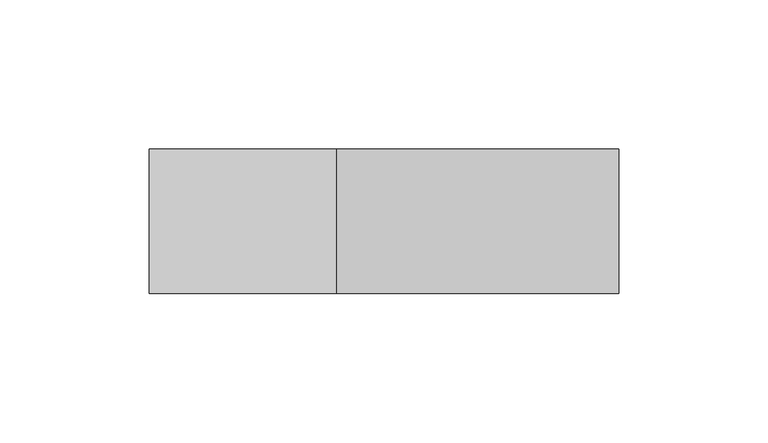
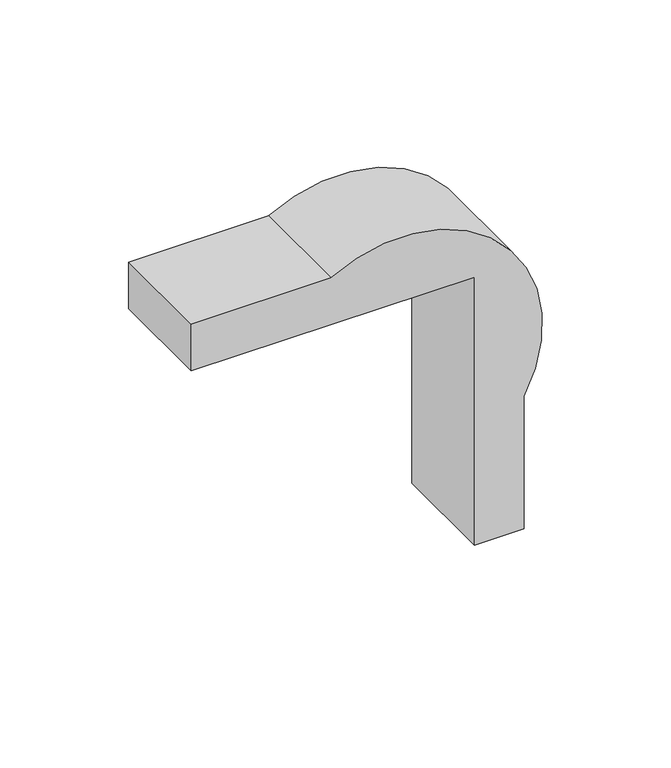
"""IFC4 building model written with IfcOpenShell, lengths in millimetres: proxy geometry, Elbow-2400_Series-Wiremold-External : Radiused, Fog White."""

from ifc_helpers import new_model, si_unit, point, frame, frame_2d, origin, place, context, project, spatial, polyline, circle_curve, trimmed, segment, composite_curve, outline, extrude, source, transform, mapped, element, save


def electrical_fixtures_f7514c31(model_context):
    return source(origin(), model_context, "Body", "SweptSolid", [
        extrude(outline(composite_curve([segment(polyline([(22.225, -64.3287843), (22.225, -127.0), (0.0, -127.0), (0.0, 0.0), (-127.0, 0.0), (-127.0, 22.225), (-64.3287843, 22.225)]), True, "CONTINUOUS"), segment(trimmed(circle_curve(frame_2d((-33.02, -33.02)), 63.5), [point((-64.3287843, 22.225))], [point((22.225, -64.3287843))], False, "CARTESIAN"), True, "CONTINUOUS")], self_intersect=False)), frame((0.0, -24.2062, 0.0), z_axis=(0.0, 1.0, 0.0), x_axis=(0.0, 0.0, 1.0)), (0.0, 0.0, 1.0), 48.4124),
    ])


if __name__ == "__main__":
    model = new_model("IFC4")
    model_context = context("Model", 3, world=origin())
    ifc_project = project(units=[si_unit("LENGTHUNIT", "METRE", prefix="MILLI")], contexts=[model_context])
    site = spatial("IfcSite", under=ifc_project)
    building = spatial("IfcBuilding", under=site)
    placement = place(None, origin())
    electrical_fixtures_shape = electrical_fixtures_f7514c31(model_context)
    element("IfcBuildingElementProxy", 1, Name="Elbow-2400_Series-Wiremold-External : Radiused, Fog White", ObjectType="Elbow-2400_Series-Wiremold-External : Radiused, Fog White", at=placement, inside=building, context=model_context, shape_type="MappedRepresentation", body=[
        mapped(electrical_fixtures_shape, transform((0.0, 0.0, 0.0), x_axis=(1.0, 0.0, 0.0), y_axis=(0.0, 1.0, 0.0), z_axis=(0.0, 0.0, 1.0))),
    ])
    save(model, "model.ifc")
